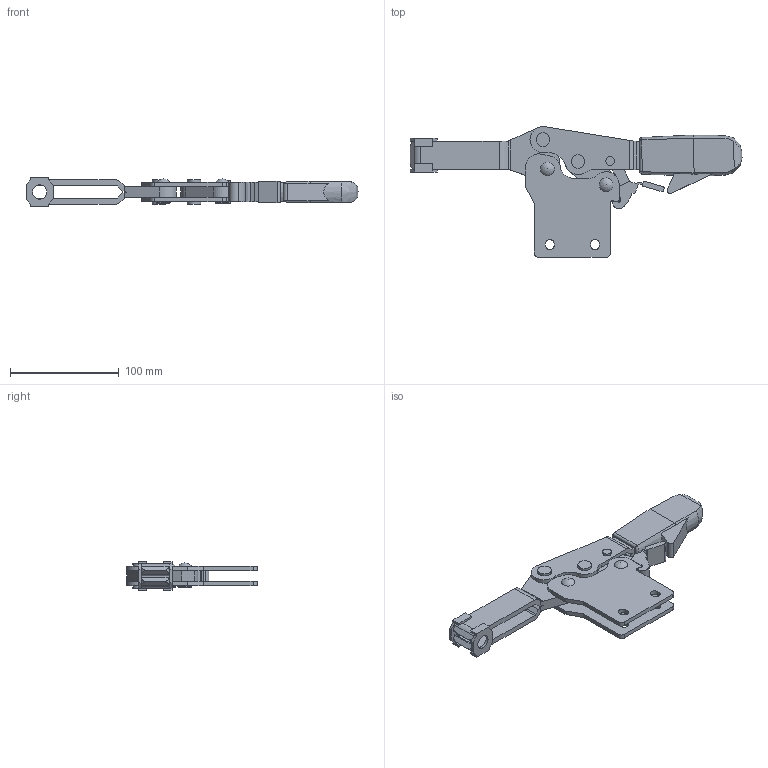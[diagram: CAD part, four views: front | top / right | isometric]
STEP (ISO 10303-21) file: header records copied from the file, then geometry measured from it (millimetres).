
FILE_DESCRIPTION( ( 'STEP AP203' ), '1' );
FILE_NAME( 'C:/Temp/Ganter_Step_05_03_2020/data/2_4/gn_820_4/gn_820_4_st/Toggle clamp GN 820.4-455-NL (closed).stp', '2020-03-13T05:53:27', ( 'License CC BY-ND 4.0' ), ( 'CADENAS' ), ' ', 'PARTsolutions', ' ' );
FILE_SCHEMA( ( 'CONFIG_CONTROL_DESIGN' ) );
Length unit declared in the file: millimetre
Products named in the file (7): Toggle clamp GN 820.4-455-NL (closed); _Toggle clamp GN 820.4-455-NL-1; _Toggle clamp GN 820.4-455-NL (1)-2; _Toggle clamp GN 820.4-455-NL (1)-3; _Toggle clamp GN 820.4-455-NL (1)-4; _Toggle clamp GN 820.4-455-NL-5; _Toggle clamp GN 820.4-455-NL-7
Assembly tree (7 placements, depth 2):
  Toggle clamp GN 820.4-455-NL (closed)
    _Toggle clamp GN 820.4-455-NL-1
    _Toggle clamp GN 820.4-455-NL (1)-2
    _Toggle clamp GN 820.4-455-NL (1)-3
    _Toggle clamp GN 820.4-455-NL (1)-4
    _Toggle clamp GN 820.4-455-NL-5
    _Toggle clamp GN 820.4-455-NL-7  x2
Bounding box: 305.35 x 120.3 x 26.4 mm (x, y, z)
Volume: 204180.8 mm3; surface area: 82192.2 mm2
Topology: 7 solids, 7 shells, 262 faces, 711 edges, 475 vertices
Faces by surface type: plane 153, cylinder 97, bspline 4, torus 4, cone 4
Full cylindrical faces by diameter (mm): 8 x9, 12.5 x10, 13.2 x2
Entity records: 8026 total; most frequent: CARTESIAN_POINT 1636, DIRECTION 1298, ORIENTED_EDGE 1246, EDGE_CURVE 623, AXIS2_PLACEMENT_3D 460, VERTEX_POINT 430, LINE 378, VECTOR 378
